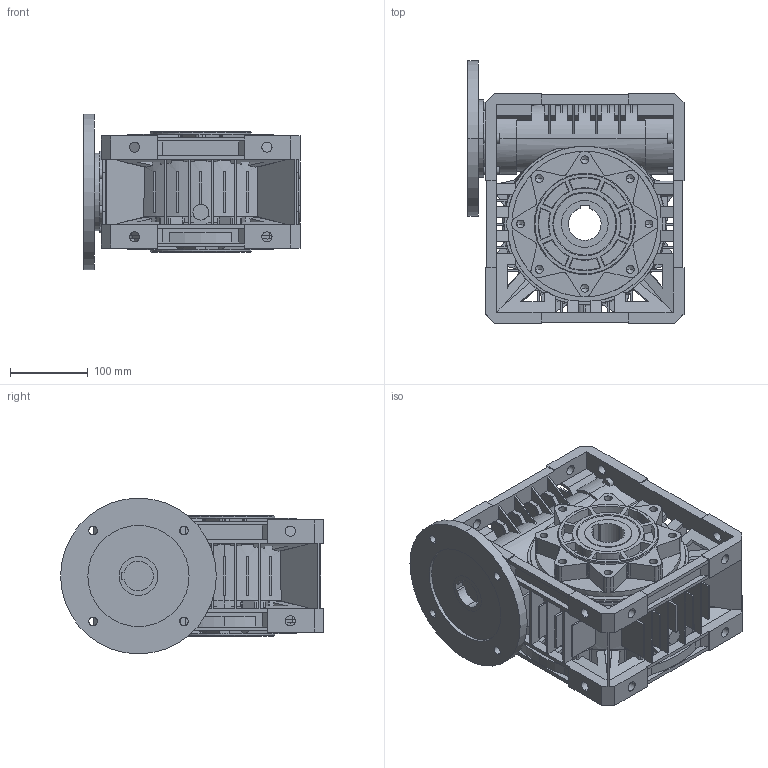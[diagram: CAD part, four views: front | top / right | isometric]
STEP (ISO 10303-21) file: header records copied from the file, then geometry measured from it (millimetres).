
FILE_DESCRIPTION (( 'STEP AP214' ), '1' );
FILE_NAME ('MU 110 NO PAM132B14 NO 0 D42 STANDARD 0 0.step', '2019-01-28T14:53:33', ( '' ), ( '' ), 'SwSTEP 2.0', 'SolidWorks 2015', '' );
FILE_SCHEMA (( 'AUTOMOTIVE_DESIGN' ));
Length unit declared in the file: millimetre
Products named in the file (7): FLANGE FP U-MU 110 - 20089362; INPUT SHAFT MU 110_F.38; PAM MU 110_PAM 132 B14; BODY U-MU 110 - 20088784; FAM MU 110_D.200; MU 110 NO PAM132B14 NO 0 D42 STANDARD 0 0; OUTPUT SHAFT U-MU_U-MU 110 D.42
Assembly tree (6 placements, depth 3):
  MU 110 NO PAM132B14 NO 0 D42 STANDARD 0 0
    BODY U-MU 110 - 20088784
    FLANGE FP U-MU 110 - 20089362
    OUTPUT SHAFT U-MU_U-MU 110 D.42
    PAM MU 110_PAM 132 B14
      FAM MU 110_D.200
      INPUT SHAFT MU 110_F.38
Bounding box: 277.5 x 337.5 x 200 mm (x, y, z)
Volume: 7298757.6 mm3; surface area: 880331.6 mm2
Topology: 5 solids, 6 shells, 1367 faces, 3950 edges, 2555 vertices
Faces by surface type: plane 811, cylinder 415, cone 139, bspline 2
Entity records: 46178 total; most frequent: CARTESIAN_POINT 9364, ORIENTED_EDGE 7820, DIRECTION 7471, EDGE_CURVE 3910, VERTEX_POINT 2555, AXIS2_PLACEMENT_3D 2503, VECTOR 2465, LINE 2465
